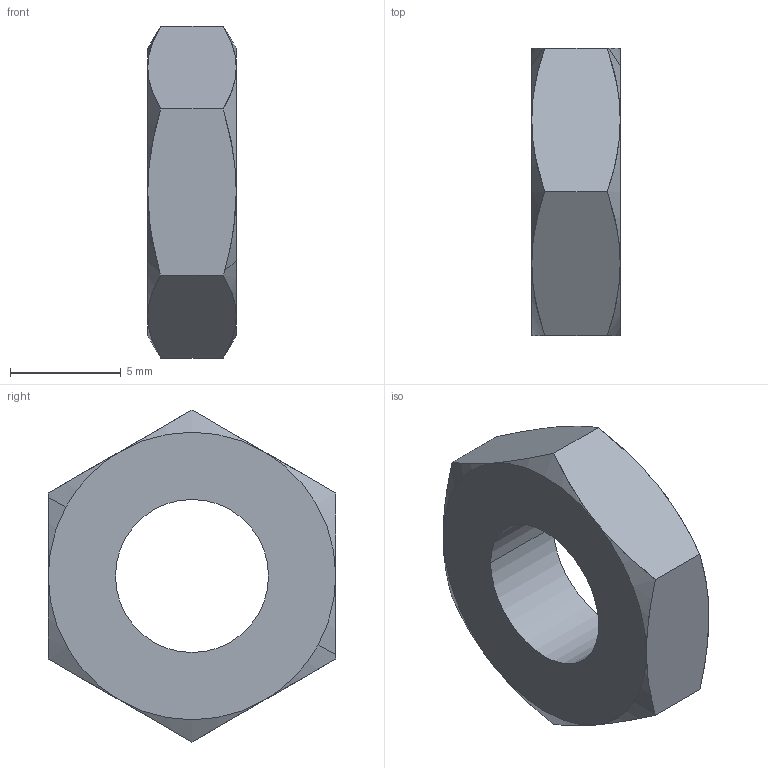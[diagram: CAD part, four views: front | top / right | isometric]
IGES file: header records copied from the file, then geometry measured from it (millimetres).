
Start section: START RECORD GO HERE.
Global section: file name: ecrou M8.igs; native system: IBM CATIA IGES - CATIA Version 5 Release 18 ; preprocessor: CATIA Version 5 Release 18 ; author: Propriétaire; organization: FUJITSU-79916BB; date: 20090111.190951; units: millimetre
Bounding box: 4 x 13 x 15.01 mm (x, y, z)
Surface area: 470.9 mm2 (no closed solid volume)
Topology: 0 solids, 0 shells, 26 faces, 120 edges, 120 vertices
Faces by surface type: revolution 18, plane 8
